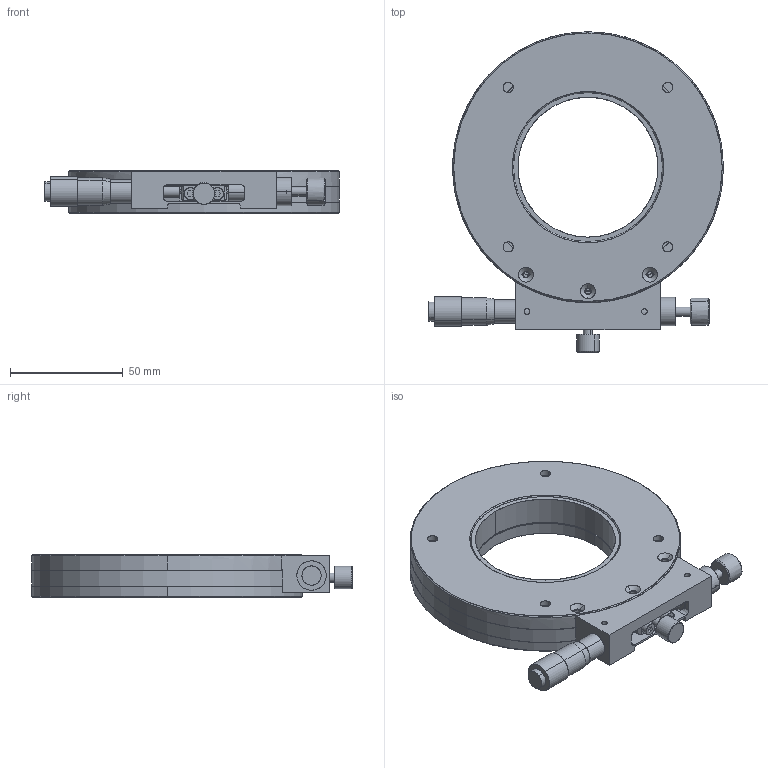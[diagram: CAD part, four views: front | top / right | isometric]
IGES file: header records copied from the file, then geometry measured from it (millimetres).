
Start section: SolidWorks IGES file using analytic representation for surfaces
Global section: file name: 3HC:\Users\dubin\Desktop\0507\PT-SR120（根据三维和样本所画）\PT-SR120反手（2）\PT-SR120反手.IGS; native system: SolidWorks 2017; preprocessor: SolidWorks 2017; author: PDV; date: 230507.171405; units: millimetre
Bounding box: 130.6 x 142 x 19 mm (x, y, z)
Surface area: 80115.6 mm2 (no closed solid volume)
Topology: 0 solids, 0 shells, 515 faces, 9958 edges, 9934 vertices
Faces by surface type: revolution 297, bspline 218
